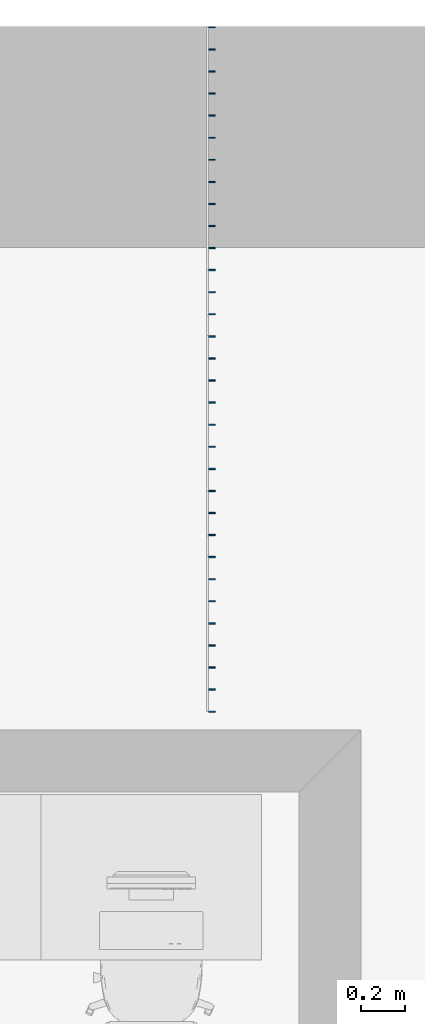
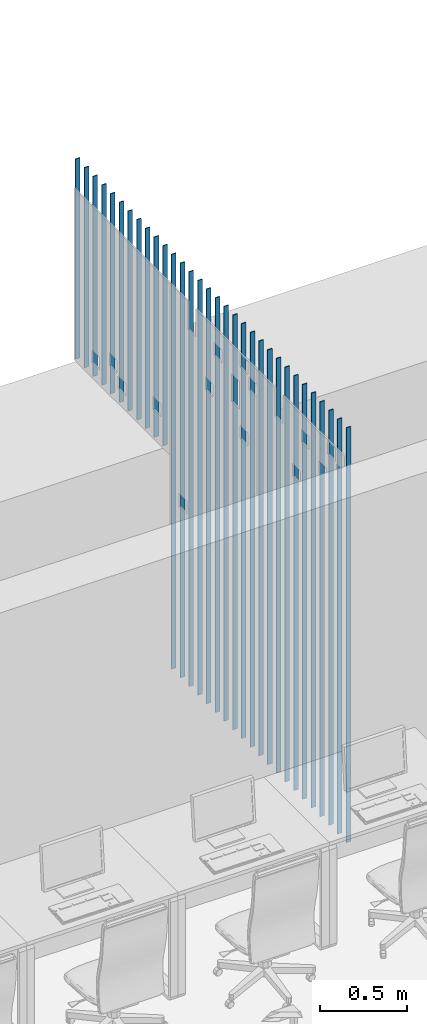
# One storey, part 4 of 51: 32 columns.
"""IFC2X3 building model written with IfcOpenShell, lengths in metres."""

import ifcopenshell
import ifcopenshell.guid

model = None  # the IFC model being written
_history = None  # IfcOwnerHistory: only IFC2X3 demands one
_inside = {}  # id of a spatial element -> (the spatial element, [elements in it])
_under = {}  # id of a project, library or spatial element -> (it, [spatial elements below it])
_declared = {}  # id of a project -> (the project, [libraries it declares])
_typed = {}  # id of a type object -> (the type object, [elements of that type])
_made_of = {}  # id of a material, layer set ... -> (it, [elements and type objects made of it])


def new_model(schema):
    """Start an empty IFC model of exactly this schema.

    Asked for "IFC4X3", IfcOpenShell would pick the latest addendum, in which some entities
    have other attributes; the version numbers below select the first issue.
    IFC2X3 requires an IfcOwnerHistory on every rooted entity: one is made here for all.
    """
    global model, _history
    if schema == "IFC4X3":
        model = ifcopenshell.file(schema_version=(4, 3, 0, 0))
    else:
        model = ifcopenshell.file(schema=schema)
    _inside.clear()
    _under.clear()
    _declared.clear()
    _typed.clear()
    _made_of.clear()
    _history = None
    if model.schema == "IFC2X3":
        org = make("IfcOrganization", Name="unknown")
        user = make(
            "IfcPersonAndOrganization",
            ThePerson=make("IfcPerson", FamilyName="unknown"),
            TheOrganization=org,
        )
        app = make(
            "IfcApplication",
            ApplicationDeveloper=org,
            Version="unknown",
            ApplicationFullName="unknown",
            ApplicationIdentifier="unknown",
        )
        _history = make(
            "IfcOwnerHistory",
            OwningUser=user,
            OwningApplication=app,
            ChangeAction="ADDED",
            CreationDate=0,
        )
    return model


def make(cls, **values):
    """One entity of the class cls with the attributes given. An attribute that is None is left unset."""
    return model.create_entity(
        cls, **{name: value for name, value in values.items() if value is not None}
    )


def entity(cls, *values):
    """Any entity or typed value of the class cls, its attributes in the order of the schema. None: left unset."""
    e = model.create_entity(cls)
    for i, value in enumerate(values):
        if value is not None:
            e[i] = value
    return e


def rooted(cls, **values):
    """An entity with a GlobalId (a new one), such as an element, a storey or a relation."""
    return make(cls, GlobalId=ifcopenshell.guid.new(), OwnerHistory=_history, **values)


def si_unit(unit_type, name, prefix=None):
    """IfcSIUnit, for example si_unit("LENGTHUNIT", "METRE", prefix="MILLI")."""
    return make("IfcSIUnit", UnitType=unit_type, Prefix=prefix, Name=name)


def converted_unit(unit_type, name, factor, base, dimensions=None, offset=None):
    """IfcConversionBasedUnit, such as the inch: factor (a typed value) times the base unit."""
    return make(
        "IfcConversionBasedUnit"
        if offset is None
        else "IfcConversionBasedUnitWithOffset",
        ConversionOffset=offset,
        Dimensions=None
        if dimensions is None
        else entity("IfcDimensionalExponents", *dimensions),
        UnitType=unit_type,
        Name=name,
        ConversionFactor=make(
            "IfcMeasureWithUnit", ValueComponent=factor, UnitComponent=base
        ),
    )


def derived_unit(unit_type, elements):
    """IfcDerivedUnit: a product of units, each with its exponent."""
    return make(
        "IfcDerivedUnit",
        Elements=[
            make("IfcDerivedUnitElement", Unit=unit, Exponent=power)
            for unit, power in elements
        ],
        UnitType=unit_type,
    )


def assignment(units):
    """IfcUnitAssignment: the units of a project."""
    return None if units is None else make("IfcUnitAssignment", Units=units)


def point(xyz):
    """IfcCartesianPoint."""
    return None if xyz is None else make("IfcCartesianPoint", Coordinates=xyz)


def direction(xyz):
    """IfcDirection."""
    return None if xyz is None else make("IfcDirection", DirectionRatios=xyz)


def frame(location, z_axis=None, x_axis=None):
    """IfcAxis2Placement3D, a coordinate frame: its origin and axes. An axis left out is left unset."""
    return make(
        "IfcAxis2Placement3D",
        Location=point(location),
        Axis=direction(z_axis),
        RefDirection=direction(x_axis),
    )


def frame_2d(location, x_axis=None):
    """IfcAxis2Placement2D, a coordinate frame in the plane: its origin and x axis."""
    return make(
        "IfcAxis2Placement2D", Location=point(location), RefDirection=direction(x_axis)
    )


def origin():
    """The frame at (0, 0, 0) with its axes left unset."""
    return frame((0.0, 0.0, 0.0))


def origin_2d_with_axis():
    """The frame at (0, 0) in the plane with the x axis (1, 0) written out."""
    return frame_2d((0.0, 0.0), x_axis=(1.0, 0.0))


def place(relative_to, where):
    """IfcLocalPlacement: puts the frame where relative to a parent placement (None: the world)."""
    return make(
        "IfcLocalPlacement", PlacementRelTo=relative_to, RelativePlacement=where
    )


def context(
    kind, dimensions, precision=None, world=None, true_north=None, identifier=None
):
    """IfcGeometricRepresentationContext, for example the 3D "Model" context."""
    return make(
        "IfcGeometricRepresentationContext",
        ContextIdentifier=identifier,
        ContextType=kind,
        CoordinateSpaceDimension=dimensions,
        Precision=precision,
        WorldCoordinateSystem=world,
        TrueNorth=true_north,
    )


def subcontext(parent, identifier, kind, view, scale=None):
    """IfcGeometricRepresentationSubContext, for example "Body" below "Model"."""
    return make(
        "IfcGeometricRepresentationSubContext",
        ContextIdentifier=identifier,
        ContextType=kind,
        ParentContext=parent,
        TargetScale=scale,
        TargetView=view,
    )


def project(units=None, contexts=None):
    """IfcProject with its units and contexts."""
    return rooted(
        "IfcProject",
        Name="project",
        RepresentationContexts=contexts,
        UnitsInContext=assignment(units),
    )


def spatial(cls, under=None, at=None, **own):
    """A site, building, storey or space (cls), placed at a placement, below another one or the project."""
    s = rooted(cls, ObjectPlacement=at, **own)
    if under is not None:
        _under.setdefault(under.id(), (under, []))[1].append(s)
    return s


def profile(cls, at=None, kind="AREA", **sizes):
    """A parametric profile (cls). Its sizes go by their IFC names, for example OverallWidth=200.0."""
    return make(cls, ProfileType=kind, Position=at, **sizes)


def rectangle(**sizes):
    """IfcRectangleProfileDef."""
    return profile("IfcRectangleProfileDef", **sizes)


def extrude(swept, where, along, depth):
    """IfcExtrudedAreaSolid: the profile swept, set in the frame where, extruded along a direction by depth."""
    return make(
        "IfcExtrudedAreaSolid",
        SweptArea=swept,
        Position=where,
        ExtrudedDirection=direction(along),
        Depth=depth,
    )


def shape(context_of_items, identifier, shape_type, items):
    """IfcShapeRepresentation: the items that make up one representation, for example the "Body"."""
    return make(
        "IfcShapeRepresentation",
        ContextOfItems=context_of_items,
        RepresentationIdentifier=identifier,
        RepresentationType=shape_type,
        Items=items,
    )


def source(mapping_origin, context_of_items, identifier, shape_type, items):
    """IfcRepresentationMap: a shape defined once, which mapped items show again and again."""
    return make(
        "IfcRepresentationMap",
        MappingOrigin=mapping_origin,
        MappedRepresentation=shape(context_of_items, identifier, shape_type, items),
    )


def transform(
    local_origin,
    x_axis=None,
    y_axis=None,
    z_axis=None,
    scale=None,
    scale2=None,
    scale3=None,
    uniform=True,
):
    """IfcCartesianTransformationOperator3D, or its non-uniform kind. x_axis, y_axis, z_axis: its Axis1, 2, 3."""
    if uniform:
        return make(
            "IfcCartesianTransformationOperator3D",
            Axis1=direction(x_axis),
            Axis2=direction(y_axis),
            LocalOrigin=point(local_origin),
            Scale=scale,
            Axis3=direction(z_axis),
        )
    return make(
        "IfcCartesianTransformationOperator3DnonUniform",
        Axis1=direction(x_axis),
        Axis2=direction(y_axis),
        LocalOrigin=point(local_origin),
        Scale=scale,
        Axis3=direction(z_axis),
        Scale2=scale2,
        Scale3=scale3,
    )


def mapped(mapping_source, mapping_target):
    """IfcMappedItem: shows the shape of a source again, moved by a transform."""
    return make(
        "IfcMappedItem", MappingSource=mapping_source, MappingTarget=mapping_target
    )


def material(Name=None, Category=None):
    """IfcMaterial."""
    return make("IfcMaterial", Name=Name, Category=Category)


def made_of(thing, what):
    """Note that an element or type object is made of a material, layer set ...; save() writes the relation."""
    if what is not None:
        _made_of.setdefault(what.id(), (what, []))[1].append(thing)
    return thing


def type_object(cls, material=None, **own):
    """A type object (cls), such as IfcWallType, which elements share."""
    return made_of(rooted(cls, **own), material)


def type_shapes(of_type, sources):
    """Give a type object the sources (RepresentationMaps) that its elements show as mapped items."""
    of_type.RepresentationMaps = sources


def element(
    cls,
    number,
    at=None,
    inside=None,
    cuts=None,
    type_object=None,
    material=None,
    context=None,
    identifier="Body",
    shape_type=None,
    held_by="IfcProductDefinitionShape",
    body=None,
    shapes=None,
    **own,
):
    """One element of the class cls, such as IfcWall. Its Tag is "e" and its number.

    at: its placement. inside: the storey or other place that contains it. cuts: it is an
    opening in that element (IfcRelVoidsElement). A single representation is given by context,
    identifier, shape_type and body (its items); several are given by shapes. held_by: the class
    of the entity that holds the representations. save() writes the other relations.
    """
    e = rooted(cls, Tag="e%d" % number, ObjectPlacement=at, **own)
    if body is not None:
        shapes = [shape(context, identifier, shape_type, body)]
    if shapes is not None:
        e.Representation = make(held_by, Representations=shapes)
    if inside is not None:
        _inside.setdefault(inside.id(), (inside, []))[1].append(e)
    if cuts is not None:
        rooted(
            "IfcRelVoidsElement", RelatingBuildingElement=cuts, RelatedOpeningElement=e
        )
    if type_object is not None:
        _typed.setdefault(type_object.id(), (type_object, []))[1].append(e)
    return made_of(e, material)


def aggregate(whole, parts):
    """IfcRelAggregates: a whole, such as a stair, and the parts it consists of."""
    return rooted("IfcRelAggregates", RelatingObject=whole, RelatedObjects=parts)


def save(model, path):
    """Write the relations noted so far, then the file.

    IfcRelAggregates (storeys below a building ...), IfcRelContainedInSpatialStructure (elements
    in a storey), IfcRelDefinesByType, IfcRelAssociatesMaterial and IfcRelDeclares: one each for
    every whole, place, type object, material and project.
    """
    for whole, parts in _under.values():
        aggregate(whole, parts)
    for where, things in _inside.values():
        rooted(
            "IfcRelContainedInSpatialStructure",
            RelatedElements=things,
            RelatingStructure=where,
        )
    for kind, things in _typed.values():
        rooted("IfcRelDefinesByType", RelatedObjects=things, RelatingType=kind)
    for what, things in _made_of.values():
        rooted("IfcRelAssociatesMaterial", RelatedObjects=things, RelatingMaterial=what)
    for by, libraries in _declared.values():
        rooted("IfcRelDeclares", RelatingContext=by, RelatedDefinitions=libraries)
    model.write(path)


model = new_model("IFC2X3")

# Units and contexts
model_context = context("Model", 3, precision=1e-05, world=origin(), true_north=direction((6.123031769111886e-17, 1.0)))
body_context = subcontext(model_context, "Body", "Model", "MODEL_VIEW")
ifc_project = project(units=[si_unit("LENGTHUNIT", "METRE"), si_unit("AREAUNIT", "SQUARE_METRE"), si_unit("VOLUMEUNIT", "CUBIC_METRE"), converted_unit("PLANEANGLEUNIT", "DEGREE", entity("IfcRatioMeasure", 0.017453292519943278), si_unit("PLANEANGLEUNIT", "RADIAN"), dimensions=[0, 0, 0, 0, 0, 0, 0]), si_unit("MASSUNIT", "GRAM", prefix="KILO"), derived_unit("MASSDENSITYUNIT", [(si_unit("MASSUNIT", "GRAM", prefix="KILO"), 1), (si_unit("LENGTHUNIT", "METRE"), -3)]), derived_unit("MOMENTOFINERTIAUNIT", [(si_unit("LENGTHUNIT", "METRE"), 4)]), si_unit("TIMEUNIT", "SECOND"), si_unit("FREQUENCYUNIT", "HERTZ"), si_unit("THERMODYNAMICTEMPERATUREUNIT", "DEGREE_CELSIUS"), derived_unit("THERMALTRANSMITTANCEUNIT", [(si_unit("MASSUNIT", "GRAM", prefix="KILO"), 1), (si_unit("THERMODYNAMICTEMPERATUREUNIT", "KELVIN"), -1), (si_unit("TIMEUNIT", "SECOND"), -3)]), derived_unit("THERMALCONDUCTANCEUNIT", [(si_unit("MASSUNIT", "GRAM", prefix="KILO"), 1), (si_unit("LENGTHUNIT", "METRE"), 1), (si_unit("THERMODYNAMICTEMPERATUREUNIT", "KELVIN"), -1), (si_unit("TIMEUNIT", "SECOND"), -3)]), derived_unit("VOLUMETRICFLOWRATEUNIT", [(si_unit("LENGTHUNIT", "METRE"), 3), (si_unit("TIMEUNIT", "SECOND"), -1)]), derived_unit("MASSFLOWRATEUNIT", [(si_unit("MASSUNIT", "GRAM", prefix="KILO"), 1), (si_unit("TIMEUNIT", "SECOND"), -1)]), derived_unit("ROTATIONALFREQUENCYUNIT", [(si_unit("TIMEUNIT", "SECOND"), -1)]), si_unit("ELECTRICCURRENTUNIT", "AMPERE"), si_unit("ELECTRICVOLTAGEUNIT", "VOLT"), si_unit("POWERUNIT", "WATT"), si_unit("FORCEUNIT", "NEWTON", prefix="KILO"), si_unit("ILLUMINANCEUNIT", "LUX"), si_unit("LUMINOUSFLUXUNIT", "LUMEN"), si_unit("LUMINOUSINTENSITYUNIT", "CANDELA"), derived_unit("USERDEFINED", [(si_unit("MASSUNIT", "GRAM", prefix="KILO"), -1), (si_unit("LENGTHUNIT", "METRE"), -2), (si_unit("TIMEUNIT", "SECOND"), 3), (si_unit("LUMINOUSFLUXUNIT", "LUMEN"), 1)]), derived_unit("USERDEFINED", [(si_unit("MASSUNIT", "GRAM", prefix="KILO"), 1), (si_unit("LENGTHUNIT", "METRE"), 3), (si_unit("TIMEUNIT", "SECOND"), -3), (si_unit("ELECTRICCURRENTUNIT", "AMPERE"), -2)]), derived_unit("USERDEFINED", [(si_unit("LENGTHUNIT", "METRE"), 2), (si_unit("TIMEUNIT", "SECOND"), -2)]), derived_unit("SOUNDPOWERUNIT", [(si_unit("MASSUNIT", "GRAM", prefix="KILO"), 1), (si_unit("LENGTHUNIT", "METRE"), 2), (si_unit("TIMEUNIT", "SECOND"), -3)]), derived_unit("SOUNDPRESSUREUNIT", [(si_unit("MASSUNIT", "GRAM", prefix="KILO"), 1), (si_unit("LENGTHUNIT", "METRE"), -1), (si_unit("TIMEUNIT", "SECOND"), -2)]), derived_unit("LINEARVELOCITYUNIT", [(si_unit("LENGTHUNIT", "METRE"), 1), (si_unit("TIMEUNIT", "SECOND"), -1)]), si_unit("PRESSUREUNIT", "PASCAL"), derived_unit("USERDEFINED", [(si_unit("LENGTHUNIT", "METRE"), -2), (si_unit("MASSUNIT", "GRAM", prefix="KILO"), 1), (si_unit("TIMEUNIT", "SECOND"), -2)]), derived_unit("LINEARFORCEUNIT", [(si_unit("MASSUNIT", "GRAM", prefix="KILO"), 1), (si_unit("LENGTHUNIT", "METRE"), 1), (si_unit("TIMEUNIT", "SECOND"), -2), (si_unit("LENGTHUNIT", "METRE"), -1)]), derived_unit("PLANARFORCEUNIT", [(si_unit("MASSUNIT", "GRAM", prefix="KILO"), 1), (si_unit("LENGTHUNIT", "METRE"), 1), (si_unit("TIMEUNIT", "SECOND"), -2), (si_unit("LENGTHUNIT", "METRE"), -2)]), derived_unit("SPECIFICHEATCAPACITYUNIT", [(si_unit("LENGTHUNIT", "METRE"), 2), (si_unit("TIMEUNIT", "SECOND"), -2), (si_unit("THERMODYNAMICTEMPERATUREUNIT", "KELVIN"), -1)]), derived_unit("VAPORPERMEABILITYUNIT", [(si_unit("TIMEUNIT", "SECOND"), 1), (si_unit("LENGTHUNIT", "METRE"), -1)]), derived_unit("DYNAMICVISCOSITYUNIT", [(si_unit("MASSUNIT", "GRAM", prefix="KILO"), 1), (si_unit("LENGTHUNIT", "METRE"), -1), (si_unit("TIMEUNIT", "SECOND"), -1)]), derived_unit("THERMALEXPANSIONCOEFFICIENTUNIT", [(si_unit("THERMODYNAMICTEMPERATUREUNIT", "KELVIN"), -1)])], contexts=[model_context])

# Site, building, storey
site_placement = place(None, origin())
site = spatial("IfcSite", under=ifc_project, at=site_placement, Name="Default", CompositionType="ELEMENT")
building_placement = place(site_placement, origin())
building = spatial("IfcBuilding", under=site, at=building_placement, CompositionType="ELEMENT")
storey_placement = place(building_placement, frame((0.0, 0.0, 3.06)))
storey = spatial("IfcBuildingStorey", under=building, at=storey_placement, Name="ÉTAGE", CompositionType="ELEMENT", Elevation=3.06)

# Columns
ifc_material = material(Name="Peinture - Gris foncé")
column_type_1 = type_object("IfcColumnType", Name="Pot-005 447493:Pot-005 447493", PredefinedType="COLUMN", material=ifc_material)
shared_shape_1 = source(origin(), body_context, "Body", "SweptSolid", [
    extrude(rectangle(XDim=0.006, YDim=0.03, at=origin_2d_with_axis()), frame((0.0, 0.0, 5.569999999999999), z_axis=(0.0, 0.0, 1.0), x_axis=(0.0, -1.0, 0.0)), (0.0, 0.0, 1.0), 1.399999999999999),
])
type_shapes(column_type_1, [shared_shape_1])
for number, where, name in (
    (1, (151.62575228, 28.621162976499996, -3.06), "Pot-005"),
    (2, (151.62575228, 28.521162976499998, -3.06), "Pot-005"),
    (3, (151.62575228, 28.4211629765, -3.06), "Pot-005"),
    (4, (151.62575228, 29.3211629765, -3.06), "Pot-005"),
    (5, (151.62575228, 29.421162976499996, -3.06), "Pot-005"),
    (6, (151.62575228, 29.2211629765, -3.06), "Pot-005"),
    (7, (151.62575228, 29.121162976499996, -3.06), "Pot-005"),
    (8, (151.62575228, 28.921162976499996, -3.06), "Pot-005"),
    (9, (151.62575228, 29.0211629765, -3.06), "Pot-005"),
    (10, (151.62575228, 28.8211629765, -3.06), "Pot-005"),
    (11, (151.62575228, 28.7211629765, -3.06), "Pot-005"),
):
    element("IfcColumn", number, at=place(storey_placement, frame(where)), inside=storey, type_object=column_type_1, material=ifc_material, Name=name, ObjectType="Pot-005 447493:Pot-005 447493", context=body_context, shape_type="MappedRepresentation", body=[
        mapped(shared_shape_1, transform((0.0, 0.0, 0.0), scale=1.0)),
    ])
column_type_2 = type_object("IfcColumnType", Name="Pot-005 447493:Pot-005 447493", PredefinedType="COLUMN", material=ifc_material)
shared_shape_2 = source(origin(), body_context, "Body", "SweptSolid", [
    extrude(rectangle(XDim=0.006, YDim=0.03, at=origin_2d_with_axis()), frame((0.0, 0.0, 4.069999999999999), z_axis=(0.0, 0.0, 1.0), x_axis=(0.0, -1.0, 0.0)), (0.0, 0.0, 1.0), 2.9000000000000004),
])
type_shapes(column_type_2, [shared_shape_2])
for number, where, name in (
    (12, (151.62575228, 28.321162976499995, -3.06), "Pot-005"),
    (13, (151.62575228, 28.2211629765, -3.06), "Pot-005"),
    (14, (151.62575228, 28.1211629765, -3.06), "Pot-005"),
    (15, (151.62575228, 28.021162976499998, -3.06), "Pot-005"),
    (16, (151.62575228, 27.9211629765, -3.06), "Pot-005"),
    (17, (151.62575228, 27.8211629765, -3.06), "Pot-005"),
    (18, (151.62575228, 27.721162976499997, -3.06), "Pot-005"),
    (19, (151.62575228, 27.6211629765, -3.06), "Pot-005"),
    (20, (151.62575228, 27.5211629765, -3.06), "Pot-005"),
    (21, (151.62575228, 27.421162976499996, -3.06), "Pot-005"),
    (22, (151.62575228, 27.3211629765, -3.06), "Pot-005"),
    (23, (151.62575228, 27.2211629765, -3.06), "Pot-005"),
    (24, (151.62575228, 27.121162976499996, -3.06), "Pot-005"),
    (25, (151.62575228, 27.0211629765, -3.06), "Pot-005"),
    (26, (151.62575228, 26.921162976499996, -3.06), "Pot-005"),
    (27, (151.62575228, 26.8211629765, -3.06), "Pot-005"),
    (28, (151.62575228, 26.7211629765, -3.06), "Pot-005"),
    (29, (151.62575228, 26.621162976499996, -3.06), "Pot-005"),
    (30, (151.62575228, 26.521162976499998, -3.06), "Pot-005"),
    (31, (151.62575228, 26.4211629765, -3.06), "Pot-005"),
    (32, (151.62575228, 26.321162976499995, -3.06), "Pot-005"),
):
    element("IfcColumn", number, at=place(storey_placement, frame(where)), inside=storey, type_object=column_type_2, material=ifc_material, Name=name, ObjectType="Pot-005 447493:Pot-005 447493", context=body_context, shape_type="MappedRepresentation", body=[
        mapped(shared_shape_2, transform((0.0, 0.0, 0.0), scale=1.0)),
    ])

save(model, "model.ifc")
